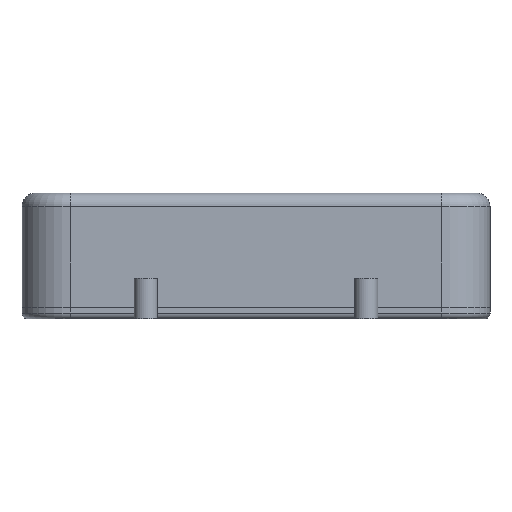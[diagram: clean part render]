
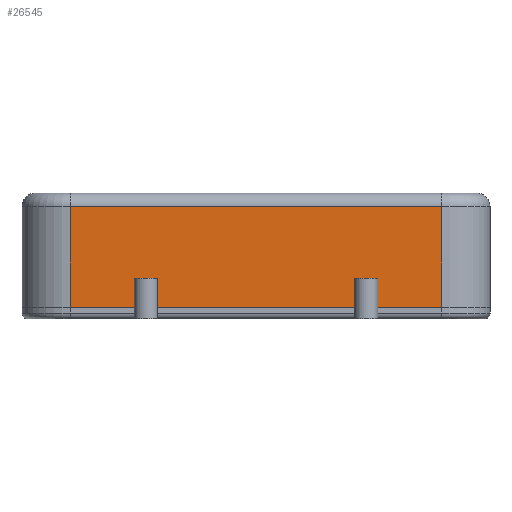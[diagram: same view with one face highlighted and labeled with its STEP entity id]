
A CAD part, front view. The second image highlights one B-rep face of the part: STEP entity #26545.
In plain terms, the highlighted planar face has unit normal (0, -1, 0).
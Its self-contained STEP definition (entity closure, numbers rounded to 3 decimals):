
#1006=PLANE('',#27752);
#2415=FACE_OUTER_BOUND('',#3975,.T.);
#3975=EDGE_LOOP('',(#21874,#21875,#21876,#21877,#21878,#21879,#21880,#21881,
#21882,#21883,#21884,#21885));
#6023=LINE('',#45198,#8862);
#6027=LINE('',#45206,#8866);
#6031=LINE('',#45214,#8870);
#6054=LINE('',#45281,#8893);
#6055=LINE('',#45284,#8894);
#6057=LINE('',#45287,#8896);
#6058=LINE('',#45290,#8897);
#6059=LINE('',#45292,#8898);
#6060=LINE('',#45293,#8899);
#6061=LINE('',#45295,#8900);
#6062=LINE('',#45297,#8901);
#6063=LINE('',#45298,#8902);
#8862=VECTOR('',#30723,10.);
#8866=VECTOR('',#30727,10.);
#8870=VECTOR('',#30731,10.);
#8893=VECTOR('',#30782,10.);
#8894=VECTOR('',#30785,10.);
#8896=VECTOR('',#30789,10.);
#8897=VECTOR('',#30792,10.);
#8898=VECTOR('',#30793,10.);
#8899=VECTOR('',#30794,10.);
#8900=VECTOR('',#30795,10.);
#8901=VECTOR('',#30796,10.);
#8902=VECTOR('',#30797,10.);
#12639=VERTEX_POINT('',#45195);
#12640=VERTEX_POINT('',#45197);
#12643=VERTEX_POINT('',#45203);
#12644=VERTEX_POINT('',#45205);
#12647=VERTEX_POINT('',#45211);
#12648=VERTEX_POINT('',#45213);
#12678=VERTEX_POINT('',#45279);
#12679=VERTEX_POINT('',#45283);
#12680=VERTEX_POINT('',#45289);
#12681=VERTEX_POINT('',#45291);
#12682=VERTEX_POINT('',#45294);
#12683=VERTEX_POINT('',#45296);
#15883=EDGE_CURVE('',#12640,#12639,#6023,.T.);
#15887=EDGE_CURVE('',#12644,#12643,#6027,.T.);
#15891=EDGE_CURVE('',#12648,#12647,#6031,.T.);
#15926=EDGE_CURVE('',#12643,#12678,#6054,.T.);
#15927=EDGE_CURVE('',#12679,#12640,#6055,.T.);
#15929=EDGE_CURVE('',#12678,#12679,#6057,.T.);
#15930=EDGE_CURVE('',#12680,#12639,#6058,.T.);
#15931=EDGE_CURVE('',#12681,#12680,#6059,.T.);
#15932=EDGE_CURVE('',#12648,#12681,#6060,.T.);
#15933=EDGE_CURVE('',#12647,#12682,#6061,.T.);
#15934=EDGE_CURVE('',#12682,#12683,#6062,.T.);
#15935=EDGE_CURVE('',#12683,#12644,#6063,.T.);
#21874=ORIENTED_EDGE('',*,*,#15926,.T.);
#21875=ORIENTED_EDGE('',*,*,#15929,.T.);
#21876=ORIENTED_EDGE('',*,*,#15927,.T.);
#21877=ORIENTED_EDGE('',*,*,#15883,.T.);
#21878=ORIENTED_EDGE('',*,*,#15930,.F.);
#21879=ORIENTED_EDGE('',*,*,#15931,.F.);
#21880=ORIENTED_EDGE('',*,*,#15932,.F.);
#21881=ORIENTED_EDGE('',*,*,#15891,.T.);
#21882=ORIENTED_EDGE('',*,*,#15933,.T.);
#21883=ORIENTED_EDGE('',*,*,#15934,.T.);
#21884=ORIENTED_EDGE('',*,*,#15935,.T.);
#21885=ORIENTED_EDGE('',*,*,#15887,.T.);
#26545=ADVANCED_FACE('',(#2415),#1006,.T.);
#27752=AXIS2_PLACEMENT_3D('',#45288,#30790,#30791);
#30723=DIRECTION('',(1.,0.,0.));
#30727=DIRECTION('',(1.,0.,0.));
#30731=DIRECTION('',(1.,0.,0.));
#30782=DIRECTION('',(0.,0.,1.));
#30785=DIRECTION('',(0.,0.,-1.));
#30789=DIRECTION('',(1.,0.,0.));
#30790=DIRECTION('center_axis',(0.,-1.,0.));
#30791=DIRECTION('ref_axis',(1.,0.,0.));
#30792=DIRECTION('',(0.,0.,-1.));
#30793=DIRECTION('',(1.,0.,0.));
#30794=DIRECTION('',(0.,0.,1.));
#30795=DIRECTION('',(0.,0.,1.));
#30796=DIRECTION('',(1.,0.,0.));
#30797=DIRECTION('',(0.,0.,-1.));
#45195=CARTESIAN_POINT('',(19.2,-27.5,-6.5));
#45197=CARTESIAN_POINT('',(12.6,-27.5,-6.5));
#45198=CARTESIAN_POINT('',(-24.2,-27.5,-6.5));
#45203=CARTESIAN_POINT('',(10.2,-27.5,-6.5));
#45205=CARTESIAN_POINT('',(-10.2,-27.5,-6.5));
#45206=CARTESIAN_POINT('',(-24.2,-27.5,-6.5));
#45211=CARTESIAN_POINT('',(-12.6,-27.5,-6.5));
#45213=CARTESIAN_POINT('',(-19.2,-27.5,-6.5));
#45214=CARTESIAN_POINT('',(-24.2,-27.5,-6.5));
#45279=CARTESIAN_POINT('',(10.2,-27.5,-3.5));
#45281=CARTESIAN_POINT('',(10.2,-27.5,-6.5));
#45283=CARTESIAN_POINT('',(12.6,-27.5,-3.5));
#45284=CARTESIAN_POINT('',(12.6,-27.5,-6.5));
#45287=CARTESIAN_POINT('',(-6.4,-27.5,-3.5));
#45288=CARTESIAN_POINT('Origin',(-24.2,-27.5,-6.5));
#45289=CARTESIAN_POINT('',(19.2,-27.5,3.9));
#45290=CARTESIAN_POINT('',(19.2,-27.5,-6.5));
#45291=CARTESIAN_POINT('',(-19.2,-27.5,3.9));
#45292=CARTESIAN_POINT('',(-12.1,-27.5,3.9));
#45293=CARTESIAN_POINT('',(-19.2,-27.5,-6.5));
#45294=CARTESIAN_POINT('',(-12.6,-27.5,-3.5));
#45295=CARTESIAN_POINT('',(-12.6,-27.5,-6.5));
#45296=CARTESIAN_POINT('',(-10.2,-27.5,-3.5));
#45297=CARTESIAN_POINT('',(-17.8,-27.5,-3.5));
#45298=CARTESIAN_POINT('',(-10.2,-27.5,-6.5));
